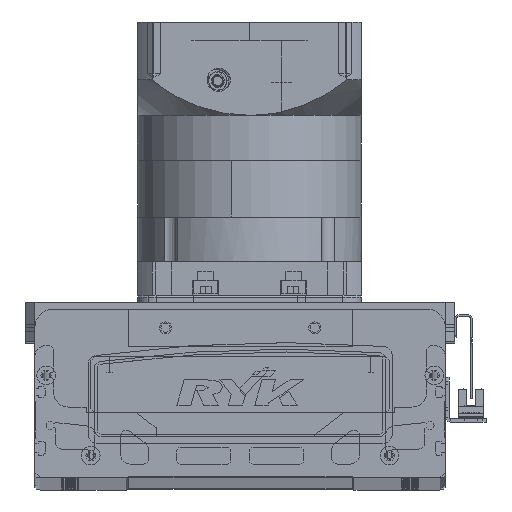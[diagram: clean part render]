
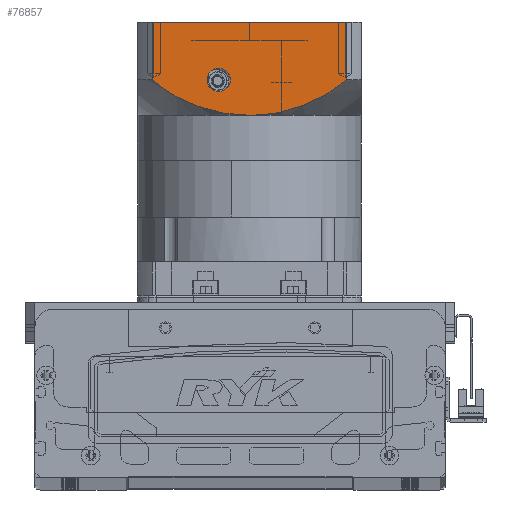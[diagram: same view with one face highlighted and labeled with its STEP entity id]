
A CAD part, top view. The second image highlights one B-rep face of the part: STEP entity #76857.
In plain terms, the highlighted planar face has unit normal (0, 0, 1) as drawn and (0, -1, 0) by its records, which use the part's own axes.
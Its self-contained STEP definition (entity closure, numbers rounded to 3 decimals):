
#1012 = EDGE_LOOP ( 'NONE', ( #54915, #42272 ) ) ;
#1831 = CARTESIAN_POINT ( 'NONE',  ( 4.753, -60., -100.5 ) ) ;
#2050 = CARTESIAN_POINT ( 'NONE',  ( -35.342, -60., -108.587 ) ) ;
#2109 = CARTESIAN_POINT ( 'NONE',  ( 42.555, -60., -112.543 ) ) ;
#3509 = CARTESIAN_POINT ( 'NONE',  ( -52.156, -60., -97.5 ) ) ;
#4973 = VERTEX_POINT ( 'NONE', #13786 ) ;
#5026 = AXIS2_PLACEMENT_3D ( 'NONE', #79553, #17916, #61553 ) ;
#5725 = AXIS2_PLACEMENT_3D ( 'NONE', #36728, #43397, #67259 ) ;
#8028 = CARTESIAN_POINT ( 'NONE',  ( 41.545, -60., -111.931 ) ) ;
#8297 = CARTESIAN_POINT ( 'NONE',  ( 0., -60., -100.5 ) ) ;
#8559 = CARTESIAN_POINT ( 'NONE',  ( 19.894, -60., -102.964 ) ) ;
#9029 = CARTESIAN_POINT ( 'NONE',  ( -11.825, -60., -101.356 ) ) ;
#9160 = DIRECTION ( 'NONE',  ( 0., 0., 1. ) ) ;
#10601 = EDGE_CURVE ( 'NONE', #47120, #27419, #67858, .T. ) ;
#13786 = CARTESIAN_POINT ( 'NONE',  ( 16.5, -60., -113.25 ) ) ;
#13982 = CARTESIAN_POINT ( 'NONE',  ( 9.454, -60., -100.914 ) ) ;
#14258 = CARTESIAN_POINT ( 'NONE',  ( 48.457, -60., -116.522 ) ) ;
#14460 = CARTESIAN_POINT ( 'NONE',  ( -29.939, -60., -106.183 ) ) ;
#14786 = CARTESIAN_POINT ( 'NONE',  ( 50.338, -60., -117.969 ) ) ;
#15124 = EDGE_CURVE ( 'NONE', #43462, #18481, #49030, .T. ) ;
#15293 = FACE_BOUND ( 'NONE', #1012, .T. ) ;
#17916 = DIRECTION ( 'NONE',  ( 0., 1., 0. ) ) ;
#18124 = DIRECTION ( 'NONE',  ( 1., 0., 0. ) ) ;
#18471 = ORIENTED_EDGE ( 'NONE', *, *, #78183, .T. ) ;
#18481 = VERTEX_POINT ( 'NONE', #67204 ) ;
#19104 = ORIENTED_EDGE ( 'NONE', *, *, #15124, .F. ) ;
#19131 = FACE_OUTER_BOUND ( 'NONE', #34519, .T. ) ;
#19440 = AXIS2_PLACEMENT_3D ( 'NONE', #35569, #72816, #18124 ) ;
#20892 = CARTESIAN_POINT ( 'NONE',  ( -52.156, -60., -119.5 ) ) ;
#20947 = CARTESIAN_POINT ( 'NONE',  ( 25.577, -60., -104.596 ) ) ;
#21407 = CARTESIAN_POINT ( 'NONE',  ( -8.294, -60., -100.916 ) ) ;
#21667 = CARTESIAN_POINT ( 'NONE',  ( -36.409, -60., -109.113 ) ) ;
#22358 = EDGE_CURVE ( 'NONE', #41053, #4973, #63943, .T. ) ;
#24978 = EDGE_CURVE ( 'NONE', #4973, #41053, #54924, .T. ) ;
#25357 = B_SPLINE_CURVE_WITH_KNOTS ( 'NONE', 3,
 ( #20892, #64012, #58335, #39870, #58071, #21667, #2050, #51139, #14460, #76329, #57313, #26772, #9029, #69634, #21407, #32934, #75809, #63741 ),
 .UNSPECIFIED., .F., .F.,
 ( 4, 2, 2, 2, 2, 2, 2, 2, 4 ),
 ( 0., 0.014, 0.018, 0.021, 0.028, 0.042, 0.046, 0.05, 0.057 ),
 .UNSPECIFIED. ) ;
#26305 = CARTESIAN_POINT ( 'NONE',  ( 32.196, -60., -107.007 ) ) ;
#26696 = CARTESIAN_POINT ( 'NONE',  ( 52.156, -60., -119.5 ) ) ;
#26772 = CARTESIAN_POINT ( 'NONE',  ( -12.993, -60., -101.537 ) ) ;
#27419 = VERTEX_POINT ( 'NONE', #26696 ) ;
#28088 = CARTESIAN_POINT ( 'NONE',  ( 52.156, -60., -150.5 ) ) ;
#32934 = CARTESIAN_POINT ( 'NONE',  ( -4.747, -60., -100.604 ) ) ;
#32993 = CARTESIAN_POINT ( 'NONE',  ( 52.156, -60., -119.5 ) ) ;
#34519 = EDGE_LOOP ( 'NONE', ( #19104, #40360, #18471, #60834, #74223 ) ) ;
#35569 = CARTESIAN_POINT ( 'NONE',  ( -60., -60., -150.5 ) ) ;
#36728 = CARTESIAN_POINT ( 'NONE',  ( 16.5, -60., -119.5 ) ) ;
#39402 = CARTESIAN_POINT ( 'NONE',  ( 15.267, -60., -101.938 ) ) ;
#39870 = CARTESIAN_POINT ( 'NONE',  ( -39.546, -60., -110.776 ) ) ;
#40360 = ORIENTED_EDGE ( 'NONE', *, *, #46743, .T. ) ;
#41053 = VERTEX_POINT ( 'NONE', #42035 ) ;
#42035 = CARTESIAN_POINT ( 'NONE',  ( 16.5, -60., -125.75 ) ) ;
#42272 = ORIENTED_EDGE ( 'NONE', *, *, #24978, .T. ) ;
#42454 = CARTESIAN_POINT ( 'NONE',  ( -52.156, -60., -150.5 ) ) ;
#43397 = DIRECTION ( 'NONE',  ( 0., 1., 0. ) ) ;
#43462 = VERTEX_POINT ( 'NONE', #42454 ) ;
#45291 = CARTESIAN_POINT ( 'NONE',  ( 16.426, -60., -102.169 ) ) ;
#46146 = CARTESIAN_POINT ( 'NONE',  ( 0., -60., -100.5 ) ) ;
#46743 = EDGE_CURVE ( 'NONE', #43462, #67699, #62571, .T. ) ;
#47120 = VERTEX_POINT ( 'NONE', #46146 ) ;
#47855 = PLANE ( 'NONE',  #19440 ) ;
#49030 = LINE ( 'NONE', #3509, #54816 ) ;
#49663 = CARTESIAN_POINT ( 'NONE',  ( 52.156, -60., -150.5 ) ) ;
#50928 = CARTESIAN_POINT ( 'NONE',  ( 44.553, -60., -113.817 ) ) ;
#51139 = CARTESIAN_POINT ( 'NONE',  ( -32.118, -60., -107.084 ) ) ;
#51572 = DIRECTION ( 'NONE',  ( 1., 0., 0. ) ) ;
#52088 = CARTESIAN_POINT ( 'NONE',  ( -60., -60., -150.5 ) ) ;
#54816 = VECTOR ( 'NONE', #9160, 1000. ) ;
#54915 = ORIENTED_EDGE ( 'NONE', *, *, #22358, .T. ) ;
#54924 = CIRCLE ( 'NONE', #5725, 6.25 ) ;
#57313 = CARTESIAN_POINT ( 'NONE',  ( -18.792, -60., -102.562 ) ) ;
#57737 = EDGE_CURVE ( 'NONE', #18481, #47120, #25357, .T. ) ;
#58071 = CARTESIAN_POINT ( 'NONE',  ( -38.51, -60., -110.207 ) ) ;
#58335 = CARTESIAN_POINT ( 'NONE',  ( -44.656, -60., -113.73 ) ) ;
#59672 = VECTOR ( 'NONE', #51572, 1000. ) ;
#60223 = LINE ( 'NONE', #28088, #63034 ) ;
#60834 = ORIENTED_EDGE ( 'NONE', *, *, #10601, .F. ) ;
#61553 = DIRECTION ( 'NONE',  ( 0., 0., -1. ) ) ;
#62571 = LINE ( 'NONE', #52088, #59672 ) ;
#63034 = VECTOR ( 'NONE', #77397, 1000. ) ;
#63538 = CARTESIAN_POINT ( 'NONE',  ( 18.739, -60., -102.681 ) ) ;
#63741 = CARTESIAN_POINT ( 'NONE',  ( 0., -60., -100.5 ) ) ;
#63943 = CIRCLE ( 'NONE', #5026, 6.25 ) ;
#64012 = CARTESIAN_POINT ( 'NONE',  ( -48.52, -60., -116.438 ) ) ;
#67204 = CARTESIAN_POINT ( 'NONE',  ( -52.156, -60., -119.5 ) ) ;
#67259 = DIRECTION ( 'NONE',  ( 0., 0., -1. ) ) ;
#67699 = VERTEX_POINT ( 'NONE', #49663 ) ;
#67858 = B_SPLINE_CURVE_WITH_KNOTS ( 'NONE', 3,
 ( #8297, #1831, #13982, #39402, #45291, #63538, #8559, #75867, #20947, #26305, #75091, #8028, #2109, #50928, #69697, #14258, #14786, #32993 ),
 .UNSPECIFIED., .F., .F.,
 ( 4, 2, 2, 2, 2, 2, 2, 2, 4 ),
 ( 0., 0.014, 0.018, 0.021, 0.028, 0.042, 0.046, 0.05, 0.057 ),
 .UNSPECIFIED. ) ;
#69634 = CARTESIAN_POINT ( 'NONE',  ( -9.477, -60., -101.046 ) ) ;
#69697 = CARTESIAN_POINT ( 'NONE',  ( 45.542, -60., -114.478 ) ) ;
#72816 = DIRECTION ( 'NONE',  ( 0., -1., 0. ) ) ;
#74223 = ORIENTED_EDGE ( 'NONE', *, *, #57737, .F. ) ;
#75091 = CARTESIAN_POINT ( 'NONE',  ( 36.444, -60., -108.986 ) ) ;
#75809 = CARTESIAN_POINT ( 'NONE',  ( -2.376, -60., -100.5 ) ) ;
#75867 = CARTESIAN_POINT ( 'NONE',  ( 23.329, -60., -103.886 ) ) ;
#76329 = CARTESIAN_POINT ( 'NONE',  ( -23.319, -60., -103.777 ) ) ;
#76857 = ADVANCED_FACE ( 'NONE', ( #19131, #15293 ), #47855, .T. ) ;
#77397 = DIRECTION ( 'NONE',  ( 0., 0., 1. ) ) ;
#78183 = EDGE_CURVE ( 'NONE', #67699, #27419, #60223, .T. ) ;
#79553 = CARTESIAN_POINT ( 'NONE',  ( 16.5, -60., -119.5 ) ) ;
